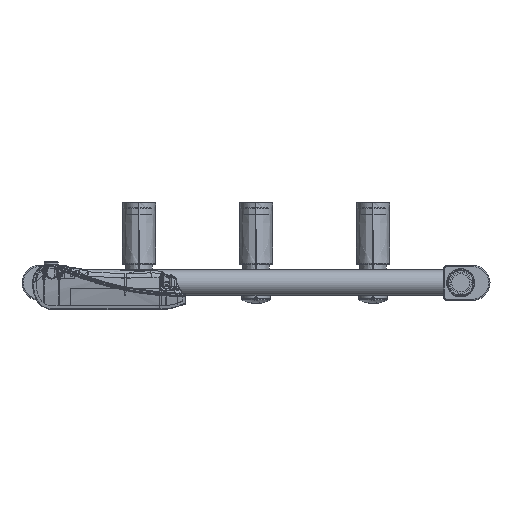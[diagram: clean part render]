
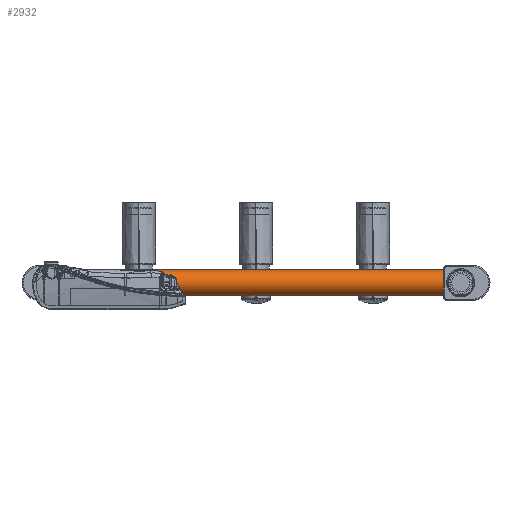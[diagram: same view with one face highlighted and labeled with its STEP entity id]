
A CAD part, front view. The second image highlights one B-rep face of the part: STEP entity #2932.
In plain terms, the highlighted cylindrical face has radius 11 mm (diameter 22 mm), a partial arc.
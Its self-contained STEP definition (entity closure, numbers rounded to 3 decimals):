
#320=CARTESIAN_POINT('',(160.,-726.,0.));
#321=DIRECTION('',(1.,0.,0.));
#322=DIRECTION('',(0.,0.,1.));
#323=AXIS2_PLACEMENT_3D('',#320,#321,#322);
#889=DIRECTION('',(1.,0.,0.));
#890=VECTOR('',#889,320.);
#891=CARTESIAN_POINT('',(-160.,-726.,-11.));
#892=LINE('',#891,#890);
#896=DIRECTION('',(1.,0.,0.));
#897=VECTOR('',#896,320.);
#898=CARTESIAN_POINT('',(-160.,-726.,11.));
#899=LINE('',#898,#897);
#939=CARTESIAN_POINT('',(-160.,-726.,0.));
#940=DIRECTION('',(1.,0.,0.));
#941=DIRECTION('',(0.,0.,1.));
#942=AXIS2_PLACEMENT_3D('',#939,#940,#941);
#2145=CARTESIAN_POINT('',(-160.,-726.,-11.));
#2146=CARTESIAN_POINT('',(160.,-726.,-11.));
#2147=VERTEX_POINT('',#2145);
#2148=VERTEX_POINT('',#2146);
#2149=CARTESIAN_POINT('',(-160.,-726.,11.));
#2150=CARTESIAN_POINT('',(160.,-726.,11.));
#2151=VERTEX_POINT('',#2149);
#2152=VERTEX_POINT('',#2150);
#2920=CARTESIAN_POINT('',(-240.,-726.,0.));
#2921=DIRECTION('',(1.,0.,0.));
#2922=DIRECTION('',(0.,0.,-1.));
#2923=AXIS2_PLACEMENT_3D('',#2920,#2921,#2922);
#2924=CYLINDRICAL_SURFACE('',#2923,11.);
#2925=ORIENTED_EDGE('',*,*,#2910,.F.);
#2927=ORIENTED_EDGE('',*,*,#2926,.F.);
#2928=ORIENTED_EDGE('',*,*,#2913,.T.);
#2929=ORIENTED_EDGE('',*,*,#2569,.T.);
#2930=EDGE_LOOP('',(#2925,#2927,#2928,#2929));
#2931=FACE_OUTER_BOUND('',#2930,.F.);
#324=CIRCLE('',#323,11.);
#943=CIRCLE('',#942,11.);
#2569=EDGE_CURVE('',#2152,#2148,#324,.T.);
#2910=EDGE_CURVE('',#2147,#2148,#892,.T.);
#2913=EDGE_CURVE('',#2151,#2152,#899,.T.);
#2926=EDGE_CURVE('',#2151,#2147,#943,.T.);
#2932=ADVANCED_FACE('',(#2931),#2924,.T.);
